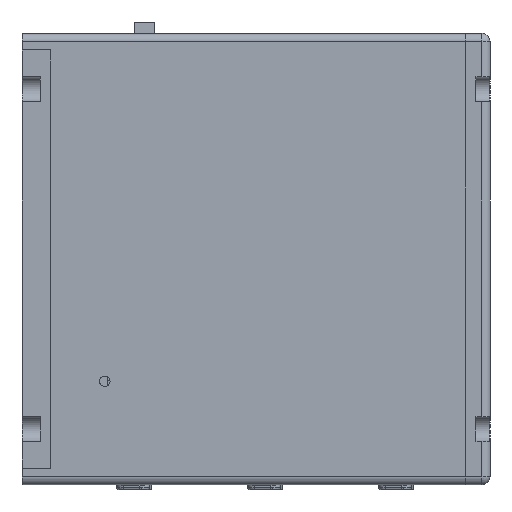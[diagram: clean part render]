
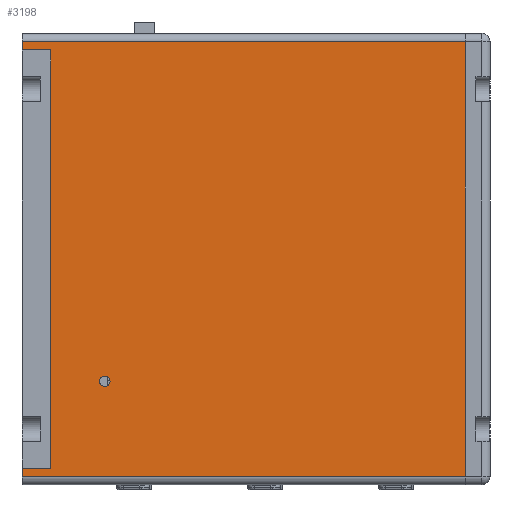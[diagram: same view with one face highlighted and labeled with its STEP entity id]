
A CAD part, left-side view. The second image highlights one B-rep face of the part: STEP entity #3198.
In plain terms, the highlighted planar face has unit normal (-1, 0, 0).
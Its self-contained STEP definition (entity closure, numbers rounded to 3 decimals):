
#671 = VERTEX_POINT ( 'NONE', #44089 ) ;
#799 = DIRECTION ( 'NONE',  ( 0., -1., 0. ) ) ;
#832 = CIRCLE ( 'NONE', #16416, 1.25 ) ;
#904 = CARTESIAN_POINT ( 'NONE',  ( 0., 0., 50.5 ) ) ;
#1762 = EDGE_LOOP ( 'NONE', ( #38513, #31220, #56333, #27714, #41332, #54053, #39049, #28033 ) ) ;
#2754 = EDGE_CURVE ( 'NONE', #48092, #32371, #832, .T. ) ;
#3198 = ADVANCED_FACE ( 'NONE', ( #50624, #16546 ), #34764, .F. ) ;
#3762 = EDGE_CURVE ( 'NONE', #15337, #45054, #30794, .T. ) ;
#4317 = VECTOR ( 'NONE', #45597, 1000. ) ;
#5324 = CARTESIAN_POINT ( 'NONE',  ( 0., -53.5, 0. ) ) ;
#8687 = LINE ( 'NONE', #56031, #32452 ) ;
#10232 = DIRECTION ( 'NONE',  ( 0., -1., 0. ) ) ;
#10519 = CARTESIAN_POINT ( 'NONE',  ( 0., -53.5, -52.5 ) ) ;
#10765 = DIRECTION ( 'NONE',  ( 0., -1., 0. ) ) ;
#12958 = LINE ( 'NONE', #25974, #65354 ) ;
#13386 = EDGE_CURVE ( 'NONE', #32371, #48092, #33079, .T. ) ;
#14471 = EDGE_CURVE ( 'NONE', #57680, #58738, #20232, .T. ) ;
#14768 = AXIS2_PLACEMENT_3D ( 'NONE', #32954, #23190, #58655 ) ;
#15337 = VERTEX_POINT ( 'NONE', #904 ) ;
#15538 = CARTESIAN_POINT ( 'NONE',  ( 0., -20., -29.5 ) ) ;
#16191 = DIRECTION ( 'NONE',  ( -1., 0., 0. ) ) ;
#16416 = AXIS2_PLACEMENT_3D ( 'NONE', #15538, #16191, #10232 ) ;
#16546 = FACE_OUTER_BOUND ( 'NONE', #1762, .T. ) ;
#17009 = CARTESIAN_POINT ( 'NONE',  ( 0., -7., 50.5 ) ) ;
#17304 = VECTOR ( 'NONE', #10765, 1000. ) ;
#18942 = EDGE_CURVE ( 'NONE', #671, #58738, #58630, .T. ) ;
#19831 = CARTESIAN_POINT ( 'NONE',  ( 0., 0., 54.5 ) ) ;
#20232 = LINE ( 'NONE', #57055, #36921 ) ;
#23190 = DIRECTION ( 'NONE',  ( -1., 0., 0. ) ) ;
#23678 = LINE ( 'NONE', #10519, #55402 ) ;
#25123 = DIRECTION ( 'NONE',  ( 0., 0., 1. ) ) ;
#25177 = CARTESIAN_POINT ( 'NONE',  ( 0., -107., 54.5 ) ) ;
#25974 = CARTESIAN_POINT ( 'NONE',  ( 0., -7., 0. ) ) ;
#27714 = ORIENTED_EDGE ( 'NONE', *, *, #50474, .T. ) ;
#28033 = ORIENTED_EDGE ( 'NONE', *, *, #14471, .T. ) ;
#28546 = VERTEX_POINT ( 'NONE', #35683 ) ;
#29578 = ORIENTED_EDGE ( 'NONE', *, *, #13386, .F. ) ;
#30794 = LINE ( 'NONE', #51516, #17304 ) ;
#31220 = ORIENTED_EDGE ( 'NONE', *, *, #50981, .T. ) ;
#32371 = VERTEX_POINT ( 'NONE', #36692 ) ;
#32445 = DIRECTION ( 'NONE',  ( 0., 0., 1. ) ) ;
#32452 = VECTOR ( 'NONE', #61138, 1000. ) ;
#32954 = CARTESIAN_POINT ( 'NONE',  ( 0., -20., -29.5 ) ) ;
#33079 = CIRCLE ( 'NONE', #14768, 1.25 ) ;
#33246 = CARTESIAN_POINT ( 'NONE',  ( 0., -18.75, -29.5 ) ) ;
#33607 = LINE ( 'NONE', #25177, #4317 ) ;
#34764 = PLANE ( 'NONE',  #39800 ) ;
#35416 = DIRECTION ( 'NONE',  ( 0., 0., 1. ) ) ;
#35431 = VERTEX_POINT ( 'NONE', #37753 ) ;
#35683 = CARTESIAN_POINT ( 'NONE',  ( 0., 0., 52.5 ) ) ;
#36191 = EDGE_CURVE ( 'NONE', #58471, #35431, #33607, .T. ) ;
#36451 = VECTOR ( 'NONE', #25123, 1000. ) ;
#36692 = CARTESIAN_POINT ( 'NONE',  ( 0., -21.25, -29.5 ) ) ;
#36921 = VECTOR ( 'NONE', #57280, 1000. ) ;
#37753 = CARTESIAN_POINT ( 'NONE',  ( 0., -107., -52.5 ) ) ;
#38513 = ORIENTED_EDGE ( 'NONE', *, *, #18942, .F. ) ;
#39049 = ORIENTED_EDGE ( 'NONE', *, *, #49046, .F. ) ;
#39800 = AXIS2_PLACEMENT_3D ( 'NONE', #5324, #55159, #40724 ) ;
#40275 = CARTESIAN_POINT ( 'NONE',  ( 0., 0., 54.5 ) ) ;
#40724 = DIRECTION ( 'NONE',  ( 0., 1., 0. ) ) ;
#41332 = ORIENTED_EDGE ( 'NONE', *, *, #43543, .F. ) ;
#42238 = CARTESIAN_POINT ( 'NONE',  ( 0., 0., -50.5 ) ) ;
#43543 = EDGE_CURVE ( 'NONE', #15337, #28546, #45147, .T. ) ;
#44089 = CARTESIAN_POINT ( 'NONE',  ( 0., 0., -52.5 ) ) ;
#45054 = VERTEX_POINT ( 'NONE', #17009 ) ;
#45133 = VECTOR ( 'NONE', #35416, 1000. ) ;
#45147 = LINE ( 'NONE', #19831, #36451 ) ;
#45597 = DIRECTION ( 'NONE',  ( 0., 0., -1. ) ) ;
#46309 = ORIENTED_EDGE ( 'NONE', *, *, #2754, .F. ) ;
#46791 = CARTESIAN_POINT ( 'NONE',  ( 0., -7., -50.5 ) ) ;
#48092 = VERTEX_POINT ( 'NONE', #33246 ) ;
#49046 = EDGE_CURVE ( 'NONE', #57680, #45054, #12958, .T. ) ;
#50474 = EDGE_CURVE ( 'NONE', #58471, #28546, #8687, .T. ) ;
#50624 = FACE_BOUND ( 'NONE', #60484, .T. ) ;
#50981 = EDGE_CURVE ( 'NONE', #671, #35431, #23678, .T. ) ;
#51516 = CARTESIAN_POINT ( 'NONE',  ( 0., -53.5, 50.5 ) ) ;
#54053 = ORIENTED_EDGE ( 'NONE', *, *, #3762, .T. ) ;
#54439 = CARTESIAN_POINT ( 'NONE',  ( 0., -107., 52.5 ) ) ;
#55159 = DIRECTION ( 'NONE',  ( 1., 0., 0. ) ) ;
#55402 = VECTOR ( 'NONE', #799, 1000. ) ;
#56031 = CARTESIAN_POINT ( 'NONE',  ( 0., -53.5, 52.5 ) ) ;
#56333 = ORIENTED_EDGE ( 'NONE', *, *, #36191, .F. ) ;
#57055 = CARTESIAN_POINT ( 'NONE',  ( 0., -53.5, -50.5 ) ) ;
#57280 = DIRECTION ( 'NONE',  ( 0., 1., 0. ) ) ;
#57680 = VERTEX_POINT ( 'NONE', #46791 ) ;
#58471 = VERTEX_POINT ( 'NONE', #54439 ) ;
#58630 = LINE ( 'NONE', #40275, #45133 ) ;
#58655 = DIRECTION ( 'NONE',  ( 0., -1., 0. ) ) ;
#58738 = VERTEX_POINT ( 'NONE', #42238 ) ;
#60484 = EDGE_LOOP ( 'NONE', ( #29578, #46309 ) ) ;
#61138 = DIRECTION ( 'NONE',  ( 0., 1., 0. ) ) ;
#65354 = VECTOR ( 'NONE', #32445, 1000. ) ;
